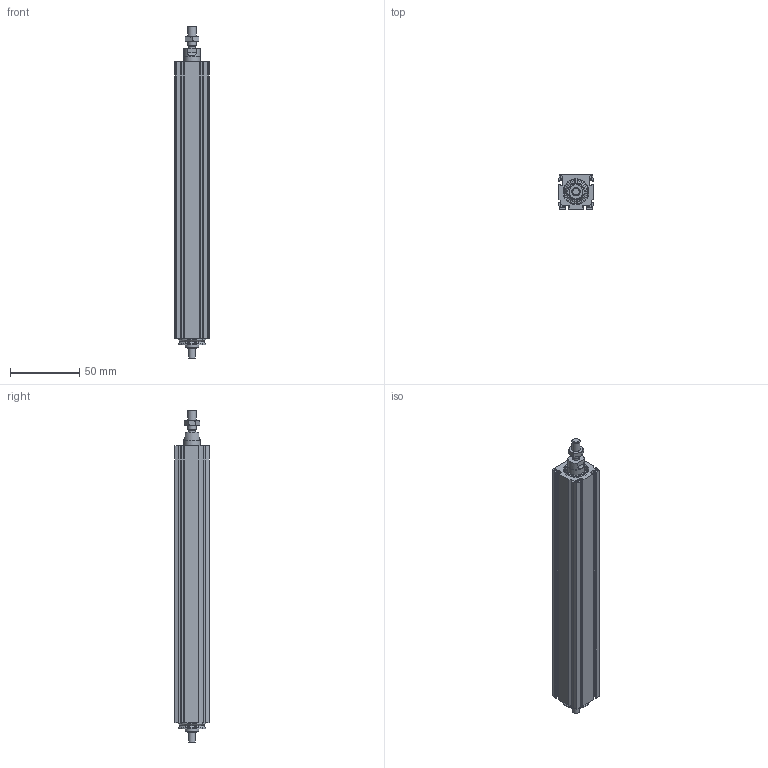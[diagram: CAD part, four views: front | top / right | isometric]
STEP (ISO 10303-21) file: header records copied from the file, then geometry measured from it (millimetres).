
FILE_DESCRIPTION(/* description */ ('STEP AP214'),/* implementation_level */ '2;1');
FILE_NAME(/* name */ 'MCE 25 0602 150 0(0)',/* time_stamp */ '2023-10-05T13:01:17+02:00',/* author */ ('License CC BY-ND 4.0'),/* organization */ ('CADENAS'),/* preprocessor_version */ 'ST-DEVELOPER v19.3',/* originating_system */ 'PARTsolutions',/* authorisation */ ' ');
FILE_SCHEMA (('AUTOMOTIVE_DESIGN {1 0 10303 214 3 1 1}'));
Length unit declared in the file: millimetre
Products named in the file (4): MCE 25 0602 150  0(0); 25_nut; 25(1500)_rod; 25(150)_msc
Assembly tree (3 placements, depth 2):
  MCE 25 0602 150  0(0)
    25_nut
    25(1500)_rod
    25(150)_msc
Bounding box: 25 x 25 x 240 mm (x, y, z)
Volume: 92455.7 mm3; surface area: 50334.9 mm2
Topology: 3 solids, 3 shells, 245 faces, 623 edges, 406 vertices
Faces by surface type: plane 110, cylinder 108, cone 23, torus 4
Full cylindrical faces by diameter (mm): 2.013 x8, 4.8 x1, 4.917 x1, 5 x1, 6 x1, 8 x1, 10 x1, 11.8 x1, 12 x2, 14.7 x1, 15.4 x1, 18 x1, 19 x2, 20 x2
Entity records: 7373 total; most frequent: CARTESIAN_POINT 1327, DIRECTION 1300, ORIENTED_EDGE 1164, EDGE_CURVE 582, AXIS2_PLACEMENT_3D 495, VERTEX_POINT 404, LINE 310, VECTOR 310
